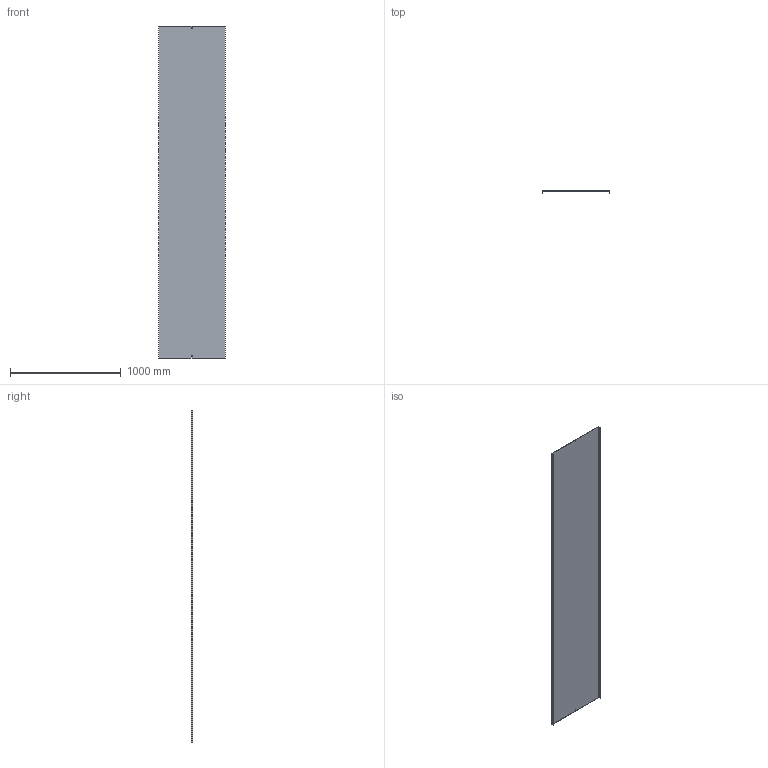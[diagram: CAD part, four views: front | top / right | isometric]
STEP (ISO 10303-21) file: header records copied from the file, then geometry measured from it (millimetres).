
FILE_DESCRIPTION (( 'STEP AP214' ), '1' );
FILE_NAME ('OCF_600.step', '2025-07-16T09:10:18', ( '' ), ( '' ), 'SwSTEP 2.0', 'SolidWorks 2023', '' );
FILE_SCHEMA (( 'AUTOMOTIVE_DESIGN' ));
Length unit declared in the file: millimetre
Products named in the file (1): OCF_600
Bounding box: 602 x 17 x 3000 mm (x, y, z)
Volume: 1901916 mm3; surface area: 3811152 mm2
Topology: 1 solids, 1 shells, 18 faces, 48 edges, 32 vertices
Faces by surface type: plane 18
Entity records: 583 total; most frequent: CARTESIAN_POINT 99, ORIENTED_EDGE 96, DIRECTION 86, EDGE_CURVE 48, LINE 48, VECTOR 48, VERTEX_POINT 32, EDGE_LOOP 22
